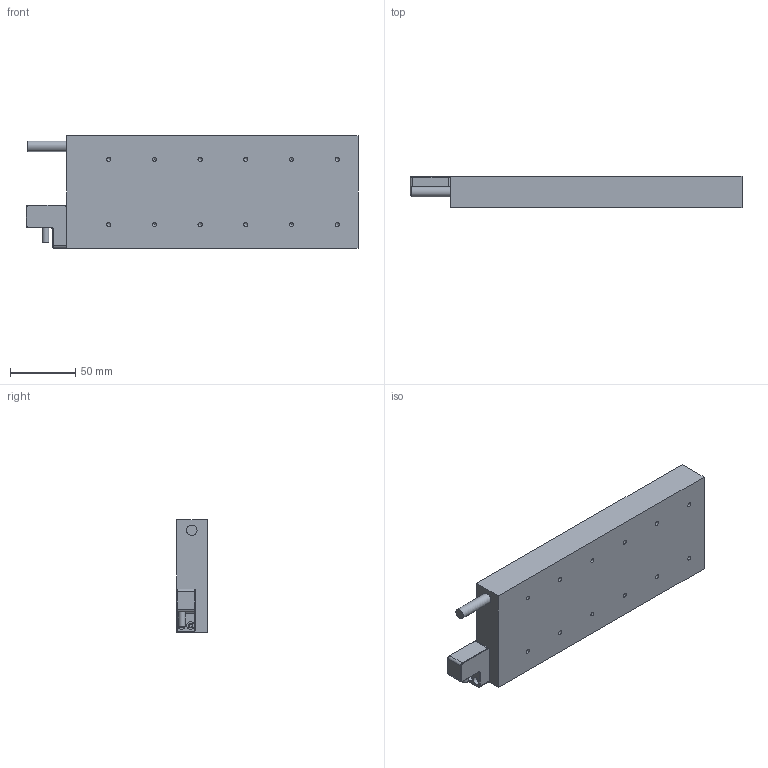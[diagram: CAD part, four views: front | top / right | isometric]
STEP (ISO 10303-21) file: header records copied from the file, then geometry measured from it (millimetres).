
FILE_DESCRIPTION( ( 'Unknown' ), '1' );
FILE_NAME( 'C:/Users/michael/Desktop/DPD86模型（业务用）/DPD86C4.stp', 'Unknown', ( 'Unknown' ), ( 'Unknown' ), 'PSStep 17.0.49', 'Unknown', ' ' );
FILE_SCHEMA( ( 'AUTOMOTIVE_DESIGN { 1 0 10303 214 1 1 1 1 }' ) );
Length unit declared in the file: millimetre
Products named in the file (3): Assem1; DPD86; 霍尔支架
Assembly tree (2 placements, depth 2):
  Assem1
    DPD86
    霍尔支架
Bounding box: 254.4 x 23.7 x 86 mm (x, y, z)
Volume: 465512.8 mm3; surface area: 58365.1 mm2
Topology: 2 solids, 3 shells, 89 faces, 206 edges, 129 vertices
Faces by surface type: plane 34, cylinder 29, cone 26
Full cylindrical faces by diameter (mm): 1.567 x2, 2.459 x2, 3.242 x12, 3.6 x2, 5 x1, 6 x2, 6.2 x1, 8 x1
Entity records: 2906 total; most frequent: DIRECTION 396, CARTESIAN_POINT 349, ORIENTED_EDGE 284, AXIS2_PLACEMENT_3D 162, EDGE_CURVE 142, EDGE_LOOP 136, VERTEX_POINT 115, FACE_OUTER_BOUND 112
